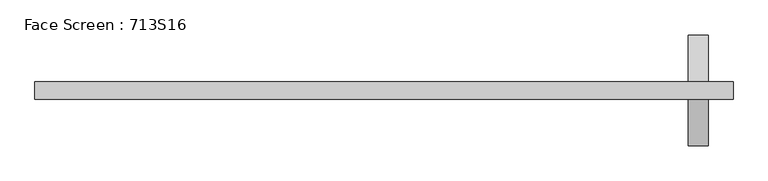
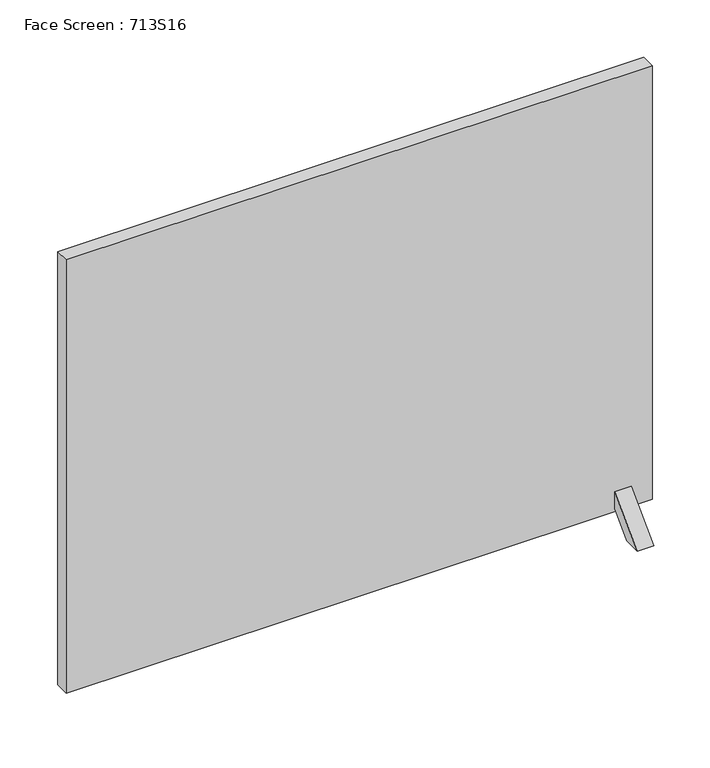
"""IFC4 building model written with IfcOpenShell, lengths in millimetres: furniture geometry, Face Screen : 713S16."""

from ifc_helpers import new_model, si_unit, frame, origin, place, context, project, spatial, polyline, outline, extrude, faceted_brep, source, transform, mapped, element, save


def face_screen_713s16_555d7e20(model_context):
    return source(origin(), model_context, "Body", "SolidModel", [
        faceted_brep([(709.0, -20.0, 50.0955899), (709.0, 20.0, 50.0955899), (709.0, 20.0, 57.4960966), (709.0, 37.6776695, 39.8184271), (709.0, -37.6776695, 39.8184271), (709.0, -20.0, 57.4960966), (697.5, 126.9935713, 0.0), (697.5, 20.0, 106.9935713), (742.5, 20.0, 106.9935713), (742.5, 126.9935713, 0.0), (697.5, 77.4960966, 0.0), (742.5, 77.4960966, 0.0), (697.5, 20.0, 57.4960966), (742.5, 20.0, 57.4960966), (731.0, 20.0, 57.4960966), (731.0, 37.6776695, 39.8184271), (731.0, -20.0, 50.0955899), (731.0, -20.0, 57.4960966), (731.0, -37.6776695, 39.8184271), (731.0, 20.0, 50.0955899), (697.5, -20.0, 57.4960966), (697.5, -20.0, 106.9935713), (742.5, -20.0, 106.9935713), (742.5, -20.0, 57.4960966), (697.5, -77.4960966, 0.0), (697.5, -126.9935713, 0.0), (742.5, -126.9935713, 0.0), (742.5, -77.4960966, 0.0)], [[[0, 1, 2, 3, 4, 5]], [[6, 7, 8, 9]], [[10, 6, 9, 11]], [[12, 10, 11, 13, 14, 15, 3, 2]], [[16, 17, 18, 15, 14, 19]], [[1, 0, 16, 19]], [[2, 1, 19, 14, 13, 8, 7, 12]], [[4, 3, 15, 18]], [[0, 5, 20, 21, 22, 23, 17, 16]], [[21, 20, 24, 25]], [[7, 6, 10, 12]], [[8, 13, 11, 9]], [[22, 26, 27, 23]], [[24, 20, 5, 4, 18, 17, 23, 27]], [[25, 24, 27, 26]], [[21, 25, 26, 22]]]),
        extrude(outline(polyline([(800.0, -20.0), (-800.0, -20.0), (-800.0, 20.0), (800.0, 20.0), (800.0, -20.0)])), frame((0.0, 0.0, 50.0), z_axis=(0.0, 0.0, 1.0), x_axis=(1.0, 0.0, 0.0)), (0.0, 0.0, 1.0), 1250.0),
    ])


if __name__ == "__main__":
    model = new_model("IFC4")
    model_context = context("Model", 3, world=origin())
    ifc_project = project(units=[si_unit("LENGTHUNIT", "METRE", prefix="MILLI")], contexts=[model_context])
    site = spatial("IfcSite", under=ifc_project)
    building = spatial("IfcBuilding", under=site)
    placement = place(None, origin())
    face_screen_713s16_shape = face_screen_713s16_555d7e20(model_context)
    element("IfcFurniture", 1, ObjectType="Face Screen : 713S16", at=placement, inside=building, context=model_context, shape_type="MappedRepresentation", body=[
        mapped(face_screen_713s16_shape, transform((0.0, 0.0, 0.0), x_axis=(1.0, 0.0, 0.0), y_axis=(0.0, 1.0, 0.0), z_axis=(0.0, 0.0, 1.0))),
    ])
    save(model, "model.ifc")
